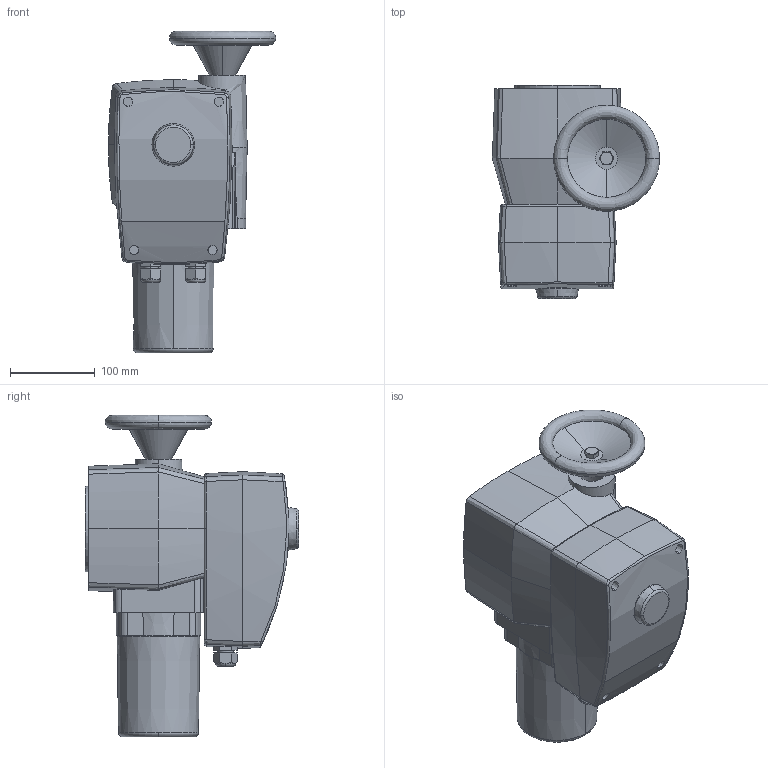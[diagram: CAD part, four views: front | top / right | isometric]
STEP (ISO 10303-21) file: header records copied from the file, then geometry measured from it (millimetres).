
FILE_DESCRIPTION((''),'2;1');
FILE_NAME('SQL36E110.dwg.stp','2006-10-04T11:32:33',(''),(''),'Mechanical Desktop 2006','Mechanical Desktop 2006',', , ');
FILE_SCHEMA(('AUTOMOTIVE_DESIGN { 1 2 10303 214 0 1 1 1 }'));
Length unit declared in the file: millimetre
Products named in the file (1): Product
Bounding box: 196.94 x 251 x 379 mm (x, y, z)
Volume: 7489493.3 mm3; surface area: 453867.8 mm2
Topology: 11 solids, 11 shells, 222 faces, 543 edges, 352 vertices
Faces by surface type: bspline 87, plane 48, cone 37, cylinder 36, torus 13, sphere 1
Entity records: 11248 total; most frequent: CARTESIAN_POINT 6388, ORIENTED_EDGE 1086, DIRECTION 874, EDGE_CURVE 543, VERTEX_POINT 352, AXIS2_PLACEMENT_3D 350, EDGE_LOOP 231, FACE_OUTER_BOUND 222
